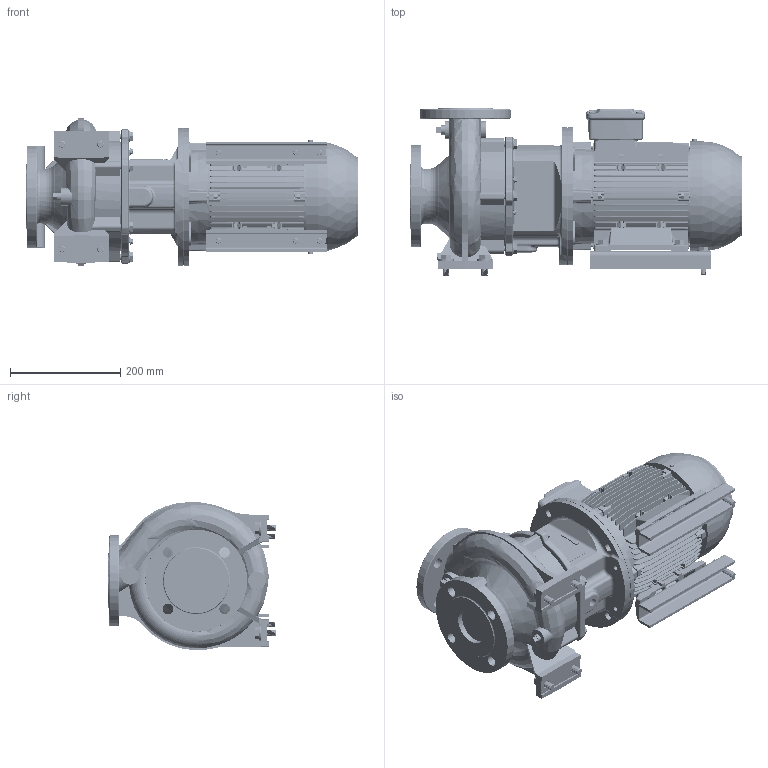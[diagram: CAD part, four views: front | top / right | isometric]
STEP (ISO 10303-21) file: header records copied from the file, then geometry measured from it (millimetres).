
FILE_DESCRIPTION (( 'STEP AP214' ), '1' );
FILE_NAME ('GSD2 50-125_3.0_(100L)_W21.STEP', '2026-07-02T06:41:17', ( '' ), ( '' ), 'SwSTEP 2.0', 'SolidWorks 2024', '' );
FILE_SCHEMA (( 'AUTOMOTIVE_DESIGN' ));
Length unit declared in the file: millimetre
Products named in the file (9): Parametric bolt_SFT-A259B; Parametric bolt_SFT-A253B; 50-125-100L; Parametric bolt_SFT-A299B; GSD2  50-125_3.0_(100L)_W21; Parametric Flat Washer_M10; 100L ALIE3_W21T_B35; Parametric Flat Washer_M12; 140 x 32 - 271472023
Assembly tree (24 placements, depth 2):
  GSD2  50-125_3.0_(100L)_W21
    50-125-100L
    100L ALIE3_W21T_B35
    140 x 32 - 271472023  x2
    Parametric bolt_SFT-A299B  x4
    Parametric bolt_SFT-A253B  x4
    Parametric bolt_SFT-A259B  x2
    Parametric Flat Washer_M10  x6
    Parametric Flat Washer_M12  x4
Bounding box: 602.1 x 304.5 x 268.83 mm (x, y, z)
Volume: 15736522.8 mm3; surface area: 1326282.4 mm2
Topology: 34 solids, 34 shells, 4198 faces, 11067 edges, 7174 vertices
Faces by surface type: plane 2312, cylinder 1117, torus 310, bspline 252, cone 189, sphere 18
Entity records: 181830 total; most frequent: CARTESIAN_POINT 90819, ORIENTED_EDGE 19806, DIRECTION 17507, EDGE_CURVE 9903, VERTEX_POINT 6432, VECTOR 6161, LINE 6161, AXIS2_PLACEMENT_3D 5673
